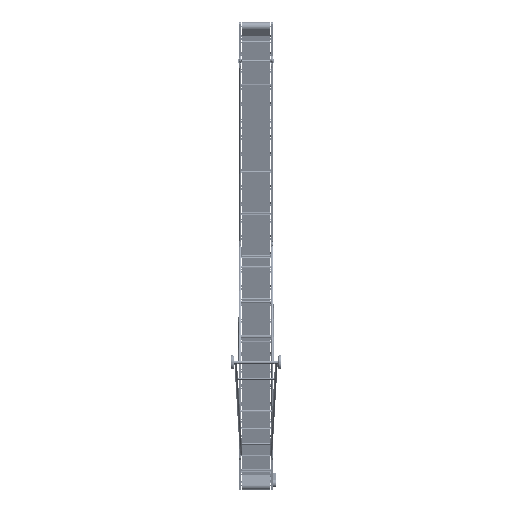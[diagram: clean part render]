
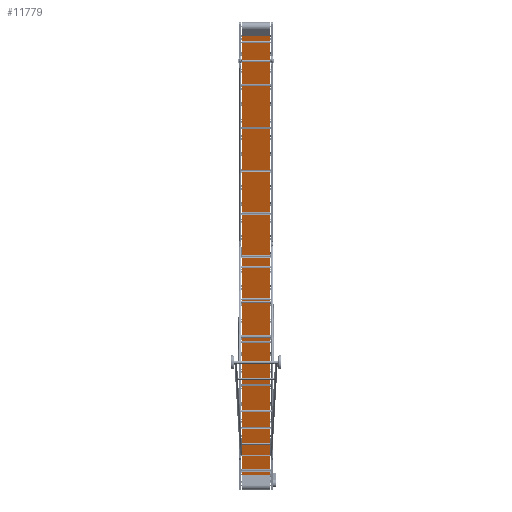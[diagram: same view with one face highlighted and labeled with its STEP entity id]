
A CAD part, front view. The second image highlights one B-rep face of the part: STEP entity #11779.
In plain terms, the highlighted planar face has unit normal (0, -0.949, -0.317) as drawn and (0, -1, 0) by its records, which use the part's own axes.
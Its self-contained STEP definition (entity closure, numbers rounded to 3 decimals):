
#11779=ADVANCED_FACE('',(#15947),#13267,.T.);
#13267=PLANE('',#58289);
#15947=FACE_OUTER_BOUND('',#19128,.T.);
#19128=EDGE_LOOP('',(#33228,#33229,#33230,#33231));
#33228=ORIENTED_EDGE('',*,*,#45630,.F.);
#33229=ORIENTED_EDGE('',*,*,#45631,.F.);
#33230=ORIENTED_EDGE('',*,*,#45598,.T.);
#33231=ORIENTED_EDGE('',*,*,#45629,.T.);
#38396=VERTEX_POINT('',#104904);
#38397=VERTEX_POINT('',#104906);
#38420=VERTEX_POINT('',#104980);
#38421=VERTEX_POINT('',#104984);
#45598=EDGE_CURVE('',#38397,#38396,#49471,.T.);
#45629=EDGE_CURVE('',#38396,#38420,#49493,.T.);
#45630=EDGE_CURVE('',#38421,#38420,#49494,.T.);
#45631=EDGE_CURVE('',#38397,#38421,#49495,.T.);
#49471=LINE('',#104905,#53319);
#49493=LINE('',#104981,#53341);
#49494=LINE('',#104983,#53342);
#49495=LINE('',#104985,#53343);
#53319=VECTOR('',#71716,1.);
#53341=VECTOR('',#71758,1.);
#53342=VECTOR('',#71761,1.);
#53343=VECTOR('',#71762,1.);
#58289=AXIS2_PLACEMENT_3D('',#104986,#71763,#71764);
#71716=DIRECTION('',(0.,0.,1.));
#71758=DIRECTION('',(-1.,0.,0.));
#71761=DIRECTION('',(0.,0.,1.));
#71762=DIRECTION('',(-1.,0.,0.));
#71763=DIRECTION('',(0.,-1.,0.));
#71764=DIRECTION('',(0.,0.,1.));
#104904=CARTESIAN_POINT('',(400.,0.,6580.487));
#104905=CARTESIAN_POINT('',(400.,0.,-6586.398));
#104906=CARTESIAN_POINT('',(400.,0.,-6586.398));
#104980=CARTESIAN_POINT('',(-400.,0.,6580.487));
#104981=CARTESIAN_POINT('',(400.,0.,6580.487));
#104983=CARTESIAN_POINT('',(-400.,0.,-6586.398));
#104984=CARTESIAN_POINT('',(-400.,0.,-6586.398));
#104985=CARTESIAN_POINT('',(400.,0.,-6586.398));
#104986=CARTESIAN_POINT('',(400.,0.,-6586.398));
